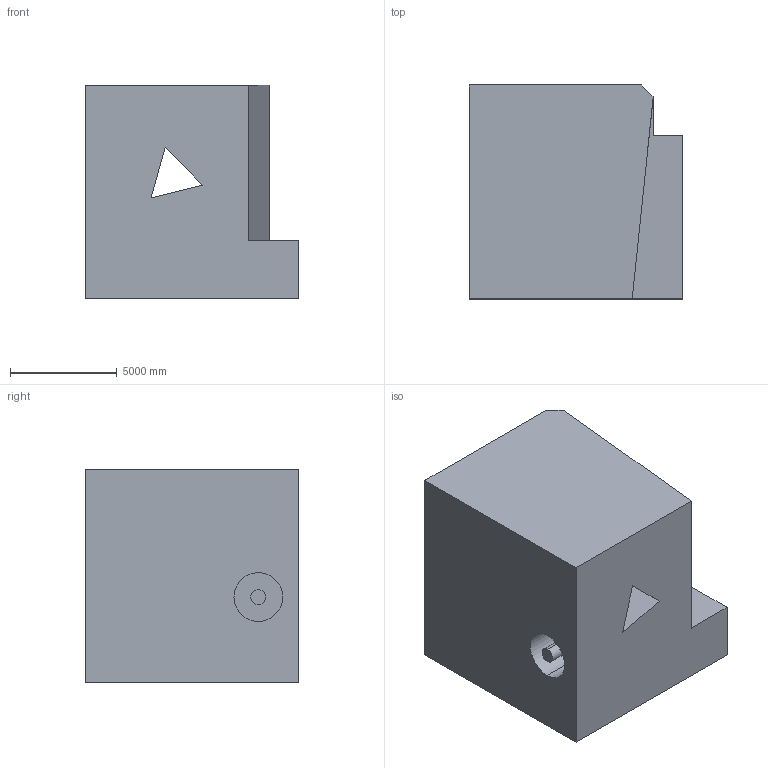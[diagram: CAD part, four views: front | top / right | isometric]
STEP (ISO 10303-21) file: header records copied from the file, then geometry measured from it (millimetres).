
FILE_DESCRIPTION (( 'STEP AP203' ), '1' );
FILE_NAME ('94.STEP', '2022-08-31T11:31:45', ( 'user' ), ( '' ), 'SwSTEP 2.0', 'SolidWorks 2021', '' );
FILE_SCHEMA (( 'CONFIG_CONTROL_DESIGN' ));
Length unit declared in the file: centimetre
Products named in the file (1): 94
Bounding box: 10000 x 10000 x 10000 mm (x, y, z)
Volume: 822211141886.1 mm3; surface area: 647311405.3 mm2
Topology: 1 solids, 1 shells, 20 faces, 48 edges, 32 vertices
Faces by surface type: plane 16, cylinder 4
Entity records: 661 total; most frequent: CARTESIAN_POINT 101, DIRECTION 98, ORIENTED_EDGE 96, EDGE_CURVE 48, LINE 40, VECTOR 40, VERTEX_POINT 32, AXIS2_PLACEMENT_3D 29
